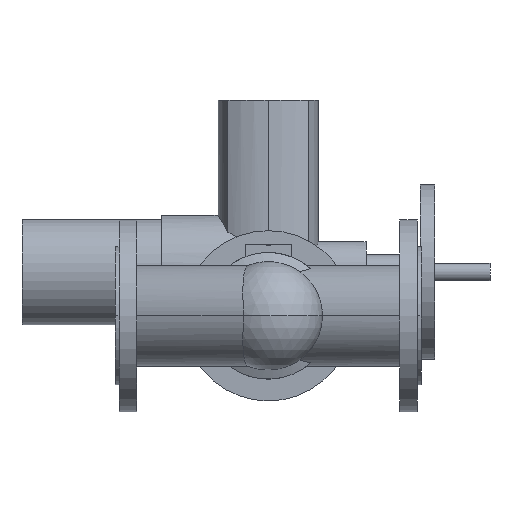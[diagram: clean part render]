
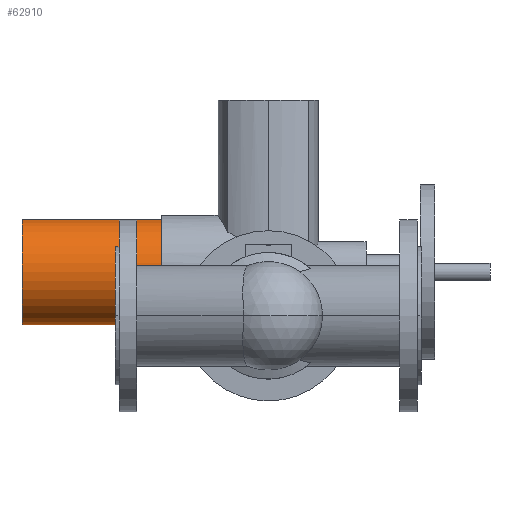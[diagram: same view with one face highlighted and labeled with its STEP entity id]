
A CAD part, front view. The second image highlights one B-rep face of the part: STEP entity #62910.
In plain terms, the highlighted cylindrical face has radius 60.5 mm (diameter 121 mm), a partial arc.
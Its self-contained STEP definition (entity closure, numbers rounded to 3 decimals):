
#62500=CARTESIAN_POINT('',(-27.,482.,50.));
#62510=DIRECTION('',(1.,0.,0.));
#62520=DIRECTION('',(0.,0.,-1.));
#62530=AXIS2_PLACEMENT_3D('',#62500,#62510,#62520);
#62540=CYLINDRICAL_SURFACE('',#62530,60.5);
#62550=CARTESIAN_POINT('',(-27.,482.,110.5));
#62560=DIRECTION('',(1.,0.,0.));
#62570=VECTOR('',#62560,1.);
#62580=LINE('',#62550,#62570);
#62590=CARTESIAN_POINT('',(-107.,482.,110.5));
#62600=VERTEX_POINT('',#62590);
#62610=CARTESIAN_POINT('',(53.,482.,110.5));
#62620=VERTEX_POINT('',#62610);
#62630=EDGE_CURVE('',#62600,#62620,#62580,.T.);
#62640=ORIENTED_EDGE('',*,*,#62630,.F.);
#62650=CARTESIAN_POINT('',(53.,482.,50.));
#62660=DIRECTION('',(-1.,0.,0.));
#62670=DIRECTION('',(0.,0.,-1.));
#62680=AXIS2_PLACEMENT_3D('',#62650,#62660,#62670);
#62690=CIRCLE('',#62680,60.5);
#62700=CARTESIAN_POINT('',(53.,482.,-10.5));
#62710=VERTEX_POINT('',#62700);
#62720=EDGE_CURVE('',#62710,#62620,#62690,.T.);
#62730=ORIENTED_EDGE('',*,*,#62720,.T.);
#62740=CARTESIAN_POINT('',(-27.,482.,-10.5));
#62750=DIRECTION('',(1.,0.,0.));
#62760=VECTOR('',#62750,1.);
#62770=LINE('',#62740,#62760);
#62780=CARTESIAN_POINT('',(-107.,482.,-10.5));
#62790=VERTEX_POINT('',#62780);
#62800=EDGE_CURVE('',#62790,#62710,#62770,.T.);
#62810=ORIENTED_EDGE('',*,*,#62800,.T.);
#62820=CARTESIAN_POINT('',(-107.,482.,50.));
#62830=DIRECTION('',(-1.,0.,0.));
#62840=DIRECTION('',(0.,0.,-1.));
#62850=AXIS2_PLACEMENT_3D('',#62820,#62830,#62840);
#62860=CIRCLE('',#62850,60.5);
#62870=EDGE_CURVE('',#62790,#62600,#62860,.T.);
#62880=ORIENTED_EDGE('',*,*,#62870,.F.);
#62890=EDGE_LOOP('',(#62880,#62810,#62730,#62640));
#62900=FACE_OUTER_BOUND('',#62890,.T.);
#62910=ADVANCED_FACE('',(#62900),#62540,.T.);
